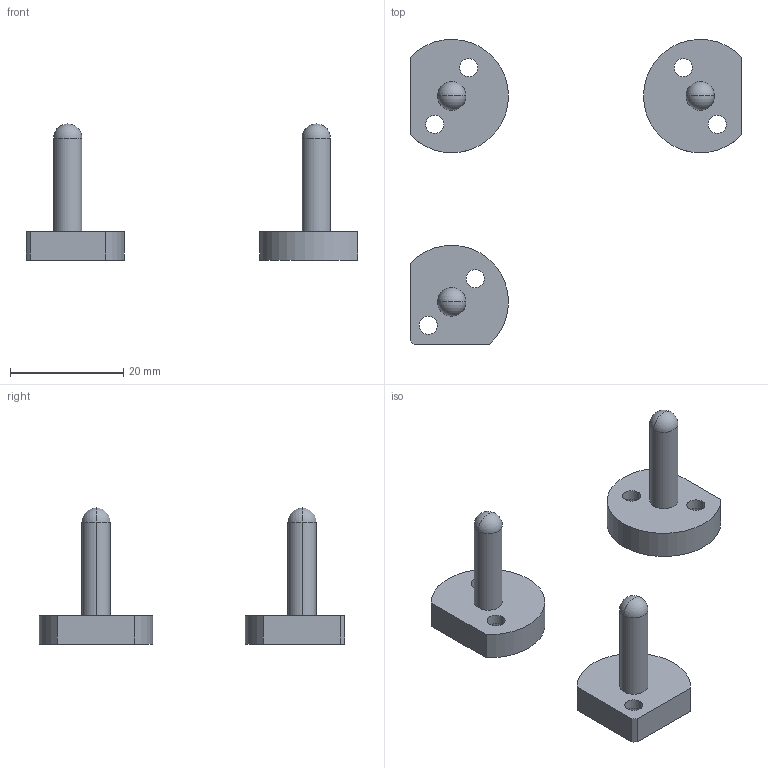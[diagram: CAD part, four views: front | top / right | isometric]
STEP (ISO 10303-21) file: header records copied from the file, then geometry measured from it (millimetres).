
FILE_DESCRIPTION (( 'STEP AP203' ), '1' );
FILE_NAME ('Dowel pin.step', '2026-06-05T03:32:57', ( '' ), ( '' ), 'SwSTEP 2.0', 'SolidWorks 2024', '' );
FILE_SCHEMA (( 'CONFIG_CONTROL_DESIGN' ));
Length unit declared in the file: millimetre
Products named in the file (1): Dowel pin
Bounding box: 58.4 x 53.79 x 24 mm (x, y, z)
Volume: 4712 mm3; surface area: 3795.5 mm2
Topology: 3 solids, 3 shells, 57 faces, 135 edges, 87 vertices
Faces by surface type: cylinder 35, plane 16, sphere 6
Entity records: 1686 total; most frequent: DIRECTION 315, CARTESIAN_POINT 262, ORIENTED_EDGE 246, AXIS2_PLACEMENT_3D 134, EDGE_CURVE 123, VERTEX_POINT 81, EDGE_LOOP 78, CIRCLE 76
